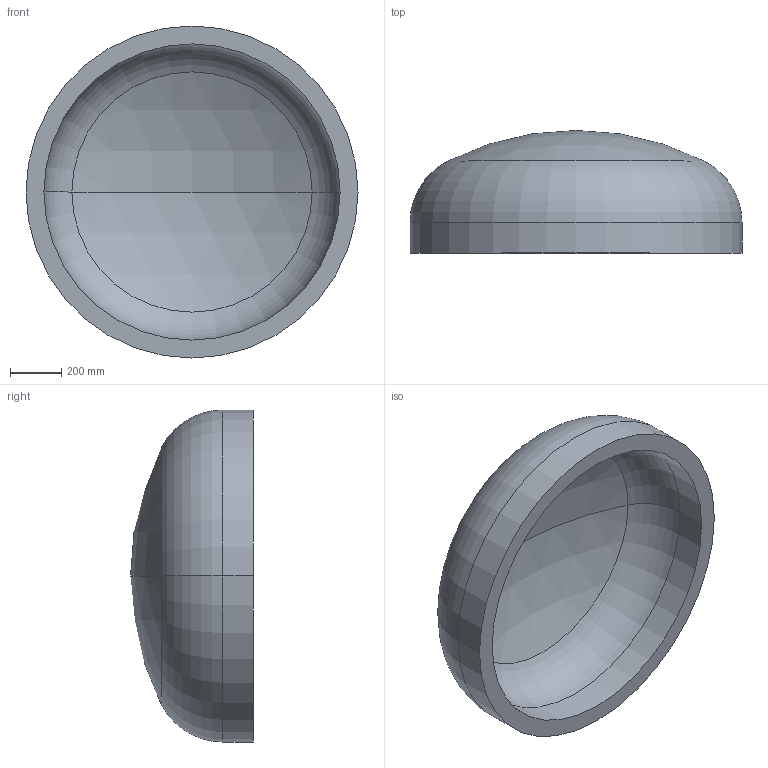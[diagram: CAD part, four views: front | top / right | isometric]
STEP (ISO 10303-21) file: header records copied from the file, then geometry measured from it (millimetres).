
FILE_DESCRIPTION (( 'STEP AP203' ), '1' );
FILE_NAME ('DIN 28013 Korbbogenform_-_Boden DIN 28013 - 1300 x 120 - I - s=70.step', '2016-07-01T09:57:34', ( '' ), ( '' ), 'SwSTEP 2.0', 'SolidWorks 2013', '' );
FILE_SCHEMA (( 'CONFIG_CONTROL_DESIGN' ));
Length unit declared in the file: millimetre
Products named in the file (1): DIN 28013 Korbbogenform_-_Boden DIN 28013 - 1300 x 120 - I - s=70
Bounding box: 1300 x 480.87 x 1300 mm (x, y, z)
Volume: 152539818.8 mm3; surface area: 4639033.2 mm2
Topology: 1 solids, 1 shells, 13 faces, 24 edges, 14 vertices
Faces by surface type: torus 4, cylinder 4, sphere 4, plane 1
Entity records: 407 total; most frequent: DIRECTION 72, CARTESIAN_POINT 52, ORIENTED_EDGE 48, AXIS2_PLACEMENT_3D 34, EDGE_CURVE 24, CIRCLE 20, EDGE_LOOP 14, VERTEX_POINT 14
